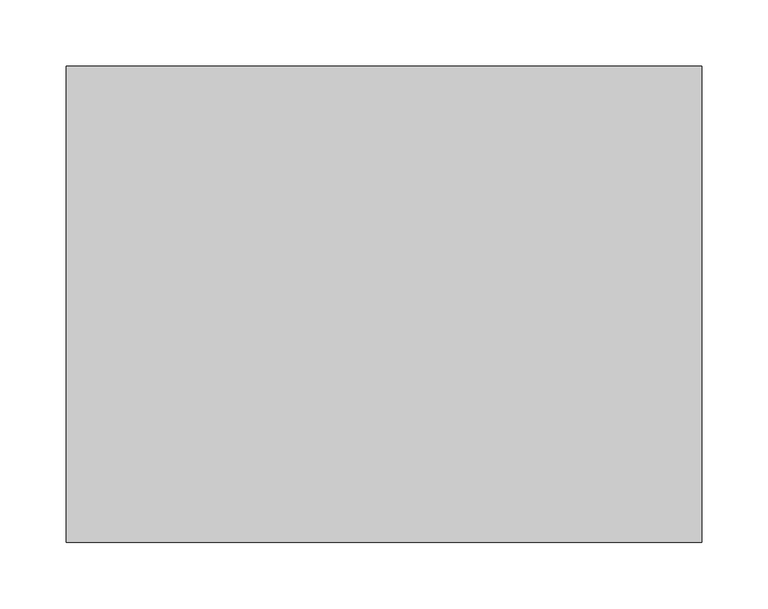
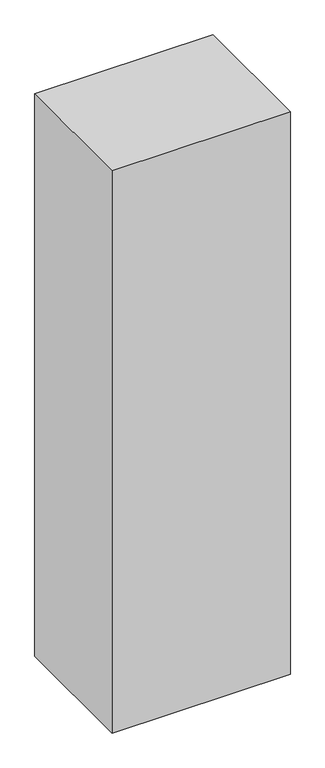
"""IFC4 building model written with IfcOpenShell, lengths in millimetres: column geometry, 2xU36 : 2xU36."""

import ifcopenshell
import ifcopenshell.guid

model = None  # the IFC model being written
_history = None  # IfcOwnerHistory: only IFC2X3 demands one
_inside = {}  # id of a spatial element -> (the spatial element, [elements in it])
_under = {}  # id of a project, library or spatial element -> (it, [spatial elements below it])
_declared = {}  # id of a project -> (the project, [libraries it declares])
_typed = {}  # id of a type object -> (the type object, [elements of that type])
_made_of = {}  # id of a material, layer set ... -> (it, [elements and type objects made of it])


def new_model(schema):
    """Start an empty IFC model of exactly this schema.

    Asked for "IFC4X3", IfcOpenShell would pick the latest addendum, in which some entities
    have other attributes; the version numbers below select the first issue.
    IFC2X3 requires an IfcOwnerHistory on every rooted entity: one is made here for all.
    """
    global model, _history
    if schema == "IFC4X3":
        model = ifcopenshell.file(schema_version=(4, 3, 0, 0))
    else:
        model = ifcopenshell.file(schema=schema)
    _inside.clear()
    _under.clear()
    _declared.clear()
    _typed.clear()
    _made_of.clear()
    _history = None
    if model.schema == "IFC2X3":
        org = make("IfcOrganization", Name="unknown")
        user = make(
            "IfcPersonAndOrganization",
            ThePerson=make("IfcPerson", FamilyName="unknown"),
            TheOrganization=org,
        )
        app = make(
            "IfcApplication",
            ApplicationDeveloper=org,
            Version="unknown",
            ApplicationFullName="unknown",
            ApplicationIdentifier="unknown",
        )
        _history = make(
            "IfcOwnerHistory",
            OwningUser=user,
            OwningApplication=app,
            ChangeAction="ADDED",
            CreationDate=0,
        )
    return model


def make(cls, **values):
    """One entity of the class cls with the attributes given. An attribute that is None is left unset."""
    return model.create_entity(
        cls, **{name: value for name, value in values.items() if value is not None}
    )


def rooted(cls, **values):
    """An entity with a GlobalId (a new one), such as an element, a storey or a relation."""
    return make(cls, GlobalId=ifcopenshell.guid.new(), OwnerHistory=_history, **values)


def si_unit(unit_type, name, prefix=None):
    """IfcSIUnit, for example si_unit("LENGTHUNIT", "METRE", prefix="MILLI")."""
    return make("IfcSIUnit", UnitType=unit_type, Prefix=prefix, Name=name)


def assignment(units):
    """IfcUnitAssignment: the units of a project."""
    return None if units is None else make("IfcUnitAssignment", Units=units)


def point(xyz):
    """IfcCartesianPoint."""
    return None if xyz is None else make("IfcCartesianPoint", Coordinates=xyz)


def direction(xyz):
    """IfcDirection."""
    return None if xyz is None else make("IfcDirection", DirectionRatios=xyz)


def frame(location, z_axis=None, x_axis=None):
    """IfcAxis2Placement3D, a coordinate frame: its origin and axes. An axis left out is left unset."""
    return make(
        "IfcAxis2Placement3D",
        Location=point(location),
        Axis=direction(z_axis),
        RefDirection=direction(x_axis),
    )


def origin():
    """The frame at (0, 0, 0) with its axes left unset."""
    return frame((0.0, 0.0, 0.0))


def origin_with_axes():
    """The frame at (0, 0, 0) with the z axis (0, 0, 1) and the x axis (1, 0, 0) written out."""
    return frame((0.0, 0.0, 0.0), z_axis=(0.0, 0.0, 1.0), x_axis=(1.0, 0.0, 0.0))


def place(relative_to, where):
    """IfcLocalPlacement: puts the frame where relative to a parent placement (None: the world)."""
    return make(
        "IfcLocalPlacement", PlacementRelTo=relative_to, RelativePlacement=where
    )


def context(
    kind, dimensions, precision=None, world=None, true_north=None, identifier=None
):
    """IfcGeometricRepresentationContext, for example the 3D "Model" context."""
    return make(
        "IfcGeometricRepresentationContext",
        ContextIdentifier=identifier,
        ContextType=kind,
        CoordinateSpaceDimension=dimensions,
        Precision=precision,
        WorldCoordinateSystem=world,
        TrueNorth=true_north,
    )


def project(units=None, contexts=None):
    """IfcProject with its units and contexts."""
    return rooted(
        "IfcProject",
        Name="project",
        RepresentationContexts=contexts,
        UnitsInContext=assignment(units),
    )


def spatial(cls, under=None, at=None, **own):
    """A site, building, storey or space (cls), placed at a placement, below another one or the project."""
    s = rooted(cls, ObjectPlacement=at, **own)
    if under is not None:
        _under.setdefault(under.id(), (under, []))[1].append(s)
    return s


def polyline(points):
    """IfcPolyline through the points."""
    return make("IfcPolyline", Points=[point(p) for p in points])


def outline(outer, holes=None, kind="AREA"):
    """IfcArbitraryClosedProfileDef: a profile drawn as a closed curve; with holes, ...WithVoids."""
    if holes is None:
        return make("IfcArbitraryClosedProfileDef", ProfileType=kind, OuterCurve=outer)
    return make(
        "IfcArbitraryProfileDefWithVoids",
        ProfileType=kind,
        OuterCurve=outer,
        InnerCurves=holes,
    )


def extrude(swept, where, along, depth):
    """IfcExtrudedAreaSolid: the profile swept, set in the frame where, extruded along a direction by depth."""
    return make(
        "IfcExtrudedAreaSolid",
        SweptArea=swept,
        Position=where,
        ExtrudedDirection=direction(along),
        Depth=depth,
    )


def shape(context_of_items, identifier, shape_type, items):
    """IfcShapeRepresentation: the items that make up one representation, for example the "Body"."""
    return make(
        "IfcShapeRepresentation",
        ContextOfItems=context_of_items,
        RepresentationIdentifier=identifier,
        RepresentationType=shape_type,
        Items=items,
    )


def source(mapping_origin, context_of_items, identifier, shape_type, items):
    """IfcRepresentationMap: a shape defined once, which mapped items show again and again."""
    return make(
        "IfcRepresentationMap",
        MappingOrigin=mapping_origin,
        MappedRepresentation=shape(context_of_items, identifier, shape_type, items),
    )


def transform(
    local_origin,
    x_axis=None,
    y_axis=None,
    z_axis=None,
    scale=None,
    scale2=None,
    scale3=None,
    uniform=True,
):
    """IfcCartesianTransformationOperator3D, or its non-uniform kind. x_axis, y_axis, z_axis: its Axis1, 2, 3."""
    if uniform:
        return make(
            "IfcCartesianTransformationOperator3D",
            Axis1=direction(x_axis),
            Axis2=direction(y_axis),
            LocalOrigin=point(local_origin),
            Scale=scale,
            Axis3=direction(z_axis),
        )
    return make(
        "IfcCartesianTransformationOperator3DnonUniform",
        Axis1=direction(x_axis),
        Axis2=direction(y_axis),
        LocalOrigin=point(local_origin),
        Scale=scale,
        Axis3=direction(z_axis),
        Scale2=scale2,
        Scale3=scale3,
    )


def mapped(mapping_source, mapping_target):
    """IfcMappedItem: shows the shape of a source again, moved by a transform."""
    return make(
        "IfcMappedItem", MappingSource=mapping_source, MappingTarget=mapping_target
    )


def made_of(thing, what):
    """Note that an element or type object is made of a material, layer set ...; save() writes the relation."""
    if what is not None:
        _made_of.setdefault(what.id(), (what, []))[1].append(thing)
    return thing


def element(
    cls,
    number,
    at=None,
    inside=None,
    cuts=None,
    type_object=None,
    material=None,
    context=None,
    identifier="Body",
    shape_type=None,
    held_by="IfcProductDefinitionShape",
    body=None,
    shapes=None,
    **own,
):
    """One element of the class cls, such as IfcWall. Its Tag is "e" and its number.

    at: its placement. inside: the storey or other place that contains it. cuts: it is an
    opening in that element (IfcRelVoidsElement). A single representation is given by context,
    identifier, shape_type and body (its items); several are given by shapes. held_by: the class
    of the entity that holds the representations. save() writes the other relations.
    """
    e = rooted(cls, Tag="e%d" % number, ObjectPlacement=at, **own)
    if body is not None:
        shapes = [shape(context, identifier, shape_type, body)]
    if shapes is not None:
        e.Representation = make(held_by, Representations=shapes)
    if inside is not None:
        _inside.setdefault(inside.id(), (inside, []))[1].append(e)
    if cuts is not None:
        rooted(
            "IfcRelVoidsElement", RelatingBuildingElement=cuts, RelatedOpeningElement=e
        )
    if type_object is not None:
        _typed.setdefault(type_object.id(), (type_object, []))[1].append(e)
    return made_of(e, material)


def aggregate(whole, parts):
    """IfcRelAggregates: a whole, such as a stair, and the parts it consists of."""
    return rooted("IfcRelAggregates", RelatingObject=whole, RelatedObjects=parts)


def save(model, path):
    """Write the relations noted so far, then the file.

    IfcRelAggregates (storeys below a building ...), IfcRelContainedInSpatialStructure (elements
    in a storey), IfcRelDefinesByType, IfcRelAssociatesMaterial and IfcRelDeclares: one each for
    every whole, place, type object, material and project.
    """
    for whole, parts in _under.values():
        aggregate(whole, parts)
    for where, things in _inside.values():
        rooted(
            "IfcRelContainedInSpatialStructure",
            RelatedElements=things,
            RelatingStructure=where,
        )
    for kind, things in _typed.values():
        rooted("IfcRelDefinesByType", RelatedObjects=things, RelatingType=kind)
    for what, things in _made_of.values():
        rooted("IfcRelAssociatesMaterial", RelatedObjects=things, RelatingMaterial=what)
    for by, libraries in _declared.values():
        rooted("IfcRelDeclares", RelatingContext=by, RelatedDefinitions=libraries)
    model.write(path)


def column_37c2899f(model_context):
    return source(origin(), model_context, "Body", "SweptSolid", [
        extrude(outline(polyline([(-240.0, -180.0), (-240.0, 180.0), (240.0, 180.0), (240.0, -180.0), (-240.0, -180.0)])), origin_with_axes(), (0.0, 0.0, 1.0), 1600.0),
    ])


if __name__ == "__main__":
    model = new_model("IFC4")
    model_context = context("Model", 3, world=origin())
    ifc_project = project(units=[si_unit("LENGTHUNIT", "METRE", prefix="MILLI")], contexts=[model_context])
    site = spatial("IfcSite", under=ifc_project)
    building = spatial("IfcBuilding", under=site)
    placement = place(None, origin())
    column_shape = column_37c2899f(model_context)
    element("IfcColumn", 1, ObjectType="2xU36 : 2xU36", at=placement, inside=building, context=model_context, shape_type="MappedRepresentation", body=[
        mapped(column_shape, transform((0.0, 0.0, 0.0), x_axis=(1.0, 0.0, 0.0), y_axis=(0.0, 1.0, 0.0), z_axis=(0.0, 0.0, 1.0))),
    ])
    save(model, "model.ifc")
